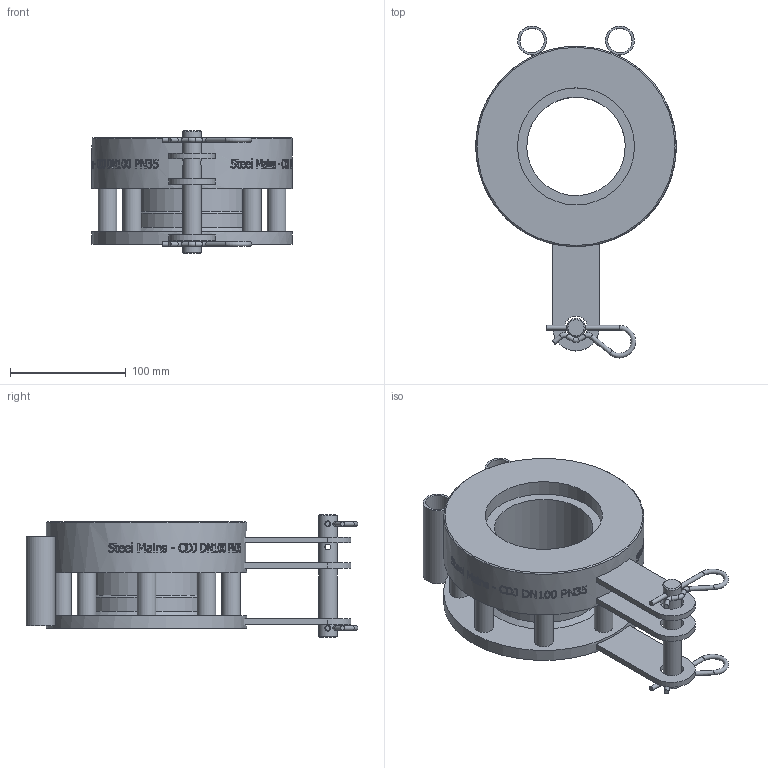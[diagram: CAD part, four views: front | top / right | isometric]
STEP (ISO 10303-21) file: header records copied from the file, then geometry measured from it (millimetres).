
FILE_DESCRIPTION(/* description */ (''),/* implementation_level */ '2;1');
FILE_NAME(/* name */ 'C:\Vault\Designs\Somerton\196\196-27 Models\Marketing Files\SteelMains - CDJ DN100 PN35 - (196-27T rev B).stp',/* time_stamp */ '2025-09-24T14:47:56+10:00',/* author */ ('Sam.Cavallaro'),/* organization */ (''),/* preprocessor_version */ 'ST-DEVELOPER v18.1',/* originating_system */ 'Autodesk Inventor 2021',/* authorisation */ '');
FILE_SCHEMA (('AUTOMOTIVE_DESIGN { 1 0 10303 214 3 1 1 }'));
Length unit declared in the file: millimetre
Products named in the file (1): SPS_ENG-084763
Bounding box: 173 x 286.45 x 106 mm (x, y, z)
Volume: 1172905.4 mm3; surface area: 200684.7 mm2
Topology: 6 solids, 6 shells, 819 faces, 2224 edges, 1484 vertices
Faces by surface type: bspline 390, plane 313, cylinder 103, torus 8, cone 5
Full cylindrical faces by diameter (mm): 4 x10, 5 x3, 16 x9, 20 x3, 21 x2, 25 x2, 85 x1, 97 x1, 101 x2, 173 x1
Entity records: 36063 total; most frequent: CARTESIAN_POINT 17423, ORIENTED_EDGE 4454, DIRECTION 2678, EDGE_CURVE 2227, VERTEX_POINT 1487, LINE 1040, VECTOR 1040, EDGE_LOOP 920
